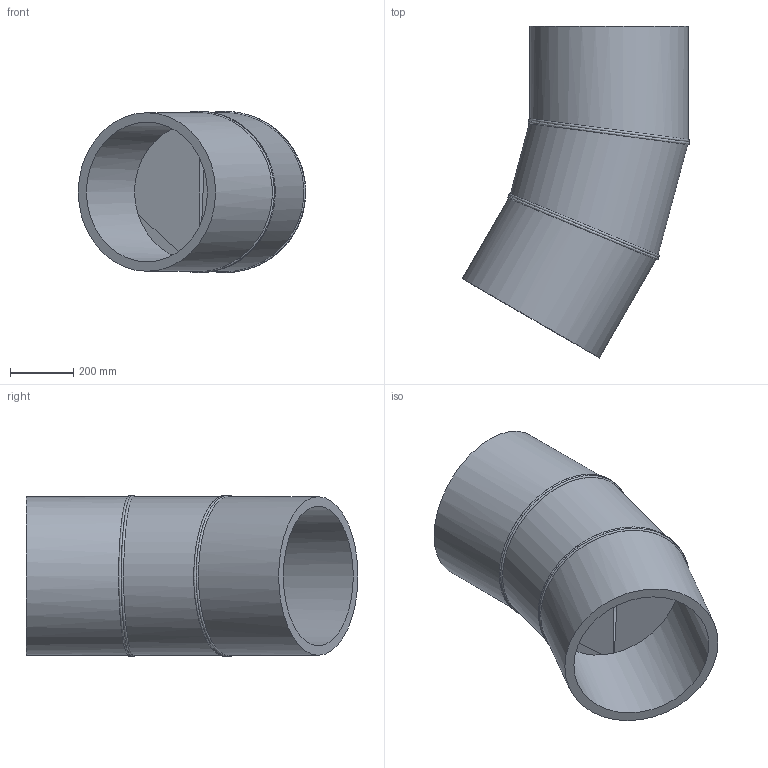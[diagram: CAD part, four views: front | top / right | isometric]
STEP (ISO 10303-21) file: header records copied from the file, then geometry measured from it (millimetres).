
FILE_DESCRIPTION(/* description */ ('Unknown'),/* implementation_level */ '2;1');
FILE_NAME(/* name */ 'Curva 30° a settore DE500 SDR17',/* time_stamp */ '2022-07-26T09:06:58+02:00',/* author */ ('Unknown'),/* organization */ ('Unknown'),/* preprocessor_version */ 'ST-DEVELOPER v18.102',/* originating_system */ 'Solid Edge',/* authorisation */ 'Unknown');
FILE_SCHEMA (('AUTOMOTIVE_DESIGN {1 0 10303 214 3 1 1}'));
Length unit declared in the file: millimetre
Products named in the file (3): Curva 30° a settore DE500 SDR17; Tubo x Gomito 30° DE500 SDR17 - 1; Tubo x Gomito 30° DE500 SDR17 - 2
Assembly tree (3 placements, depth 2):
  Curva 30° a settore DE500 SDR17
    Tubo x Gomito 30° DE500 SDR17 - 1  x2
    Tubo x Gomito 30° DE500 SDR17 - 2
Bounding box: 717.4 x 1046.46 x 507.98 mm (x, y, z)
Volume: 43019421.8 mm3; surface area: 3180442.4 mm2
Topology: 3 solids, 3 shells, 24 faces, 51 edges, 33 vertices
Faces by surface type: cylinder 14, plane 6, bspline 4
Full cylindrical faces by diameter (mm): 440.6 x3, 500 x3
Entity records: 2468 total; most frequent: CARTESIAN_POINT 2073, DIRECTION 70, ORIENTED_EDGE 52, AXIS2_PLACEMENT_3D 35, EDGE_LOOP 28, FACE_BOUND 28, EDGE_CURVE 26, VERTEX_POINT 20
